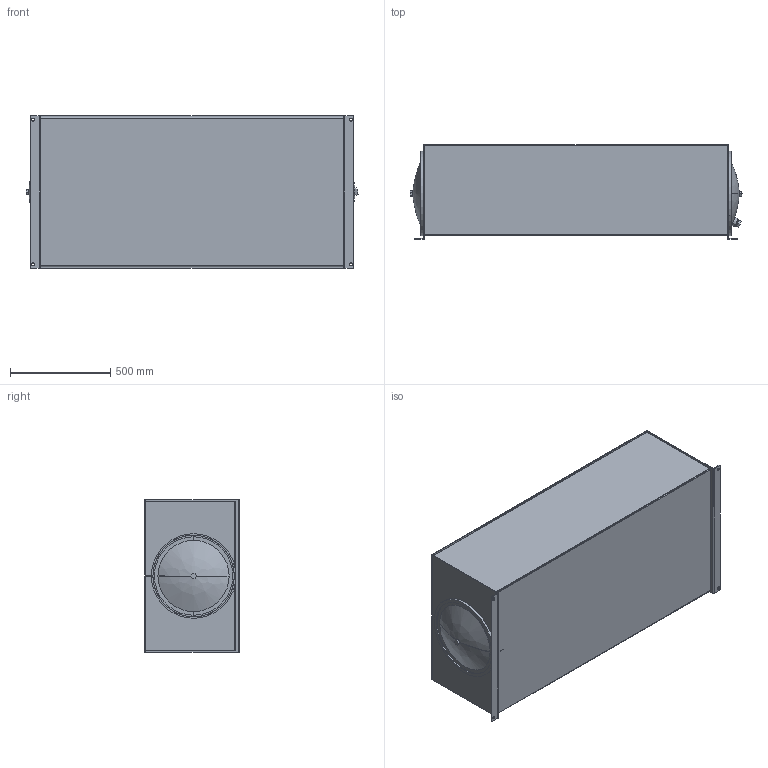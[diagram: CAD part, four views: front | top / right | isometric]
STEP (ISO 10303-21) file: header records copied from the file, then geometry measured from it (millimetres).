
FILE_DESCRIPTION (( 'STEP AP214' ), '1' );
FILE_NAME ('TH-120.STEP', '2026-04-22T18:38:14', ( '' ), ( '' ), 'SwSTEP 2.0', 'SolidWorks 2026', '' );
FILE_SCHEMA (( 'AUTOMOTIVE_DESIGN' ));
Length unit declared in the file: inch
Products named in the file (13): TH-120-BDY; CRUSH WASHER; TL-ECD-16; 0.625 - 11 HEX BOLT; 16.00 END COVER WITH DRAIN; DRAIN; 16.00 END COVER; TH-120; 16.00 GASKET; TH-120-BFL; TH-120-TOP; TL-EC-16; 0.625 - 11 BAFFLE NUT
Assembly tree (16 placements, depth 3):
  TH-120
    TH-120-TOP
    TH-120-BDY
    TH-120-BFL
    TL-ECD-16
      16.00 GASKET
      CRUSH WASHER
      0.625 - 11 HEX BOLT
      0.625 - 11 BAFFLE NUT
      16.00 END COVER WITH DRAIN
      DRAIN
    TL-EC-16
      16.00 END COVER
      16.00 GASKET
      CRUSH WASHER
      0.625 - 11 HEX BOLT
      0.625 - 11 BAFFLE NUT
Bounding box: 1658.61 x 473.07 x 762 mm (x, y, z)
Volume: 20492835.5 mm3; surface area: 10558019 mm2
Topology: 15 solids, 15 shells, 236 faces, 541 edges, 342 vertices
Faces by surface type: plane 124, cylinder 94, cone 10, bspline 8
Entity records: 6410 total; most frequent: CARTESIAN_POINT 1291, DIRECTION 1045, ORIENTED_EDGE 914, EDGE_CURVE 457, AXIS2_PLACEMENT_3D 390, VERTEX_POINT 286, VECTOR 265, LINE 265
